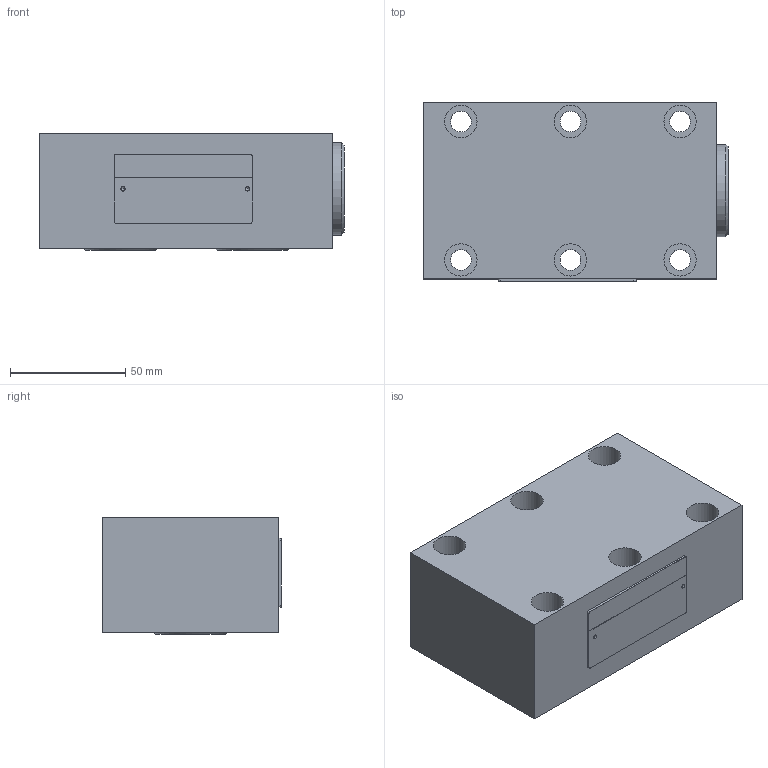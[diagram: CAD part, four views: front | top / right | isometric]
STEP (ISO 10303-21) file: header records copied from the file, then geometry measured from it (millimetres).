
FILE_DESCRIPTION(/* description */ (''),/* implementation_level */ '2;1');
FILE_NAME(/* name */ 'RVP20单向阀.prt.stp',/* time_stamp */ '2022-03-30T19:11:52+08:00',/* author */ (''),/* organization */ (''),/* preprocessor_version */ 'ST-DEVELOPER v16.7',/* originating_system */ 'SIEMENS PLM Software NX 12.0',/* authorisation */ '');
FILE_SCHEMA (('AUTOMOTIVE_DESIGN { 1 0 10303 214 3 1 1 1 }'));
Length unit declared in the file: millimetre
Products named in the file (1): RVP20单向阀
Bounding box: 131.8 x 77.6 x 50.7 mm (x, y, z)
Volume: 472235.8 mm3; surface area: 72970.2 mm2
Topology: 6 solids, 7 shells, 112 faces, 267 edges, 176 vertices
Faces by surface type: cylinder 50, plane 47, bspline 7, cone 6, torus 2
Full cylindrical faces by diameter (mm): 1.8 x2, 1.9 x2, 9 x6, 14 x6, 20 x1, 21 x1, 31.5 x2, 31.9 x7, 33.25 x9, 34 x1, 35 x1, 40 x1, 45 x1
Entity records: 6396 total; most frequent: CARTESIAN_POINT 4340, DIRECTION 405, ORIENTED_EDGE 344, EDGE_CURVE 172, AXIS2_PLACEMENT_3D 169, EDGE_LOOP 159, VERTEX_POINT 136, FACE_BOUND 121
